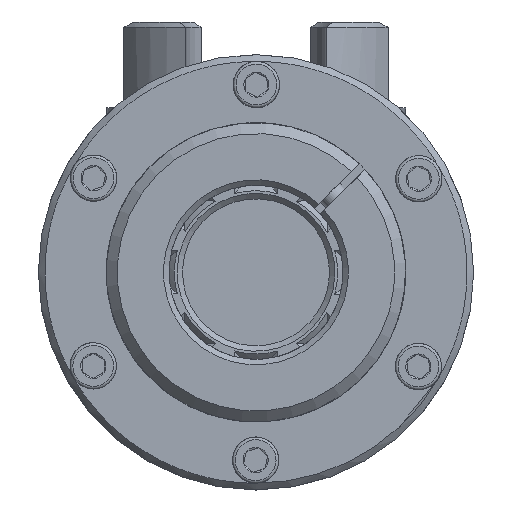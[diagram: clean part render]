
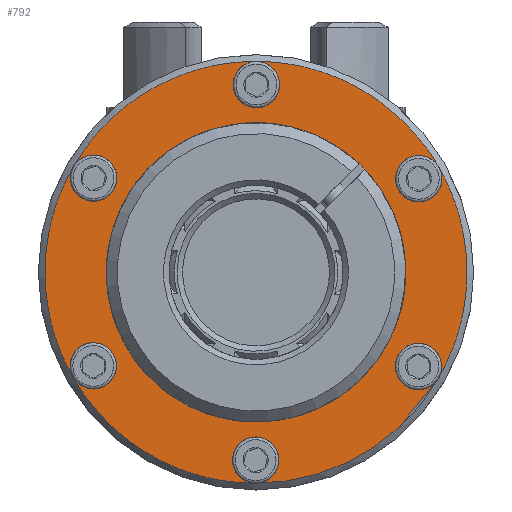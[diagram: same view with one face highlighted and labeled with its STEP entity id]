
A CAD part, left-side view. The second image highlights one B-rep face of the part: STEP entity #792.
In plain terms, the highlighted planar face has unit normal (-1, 0, 0).
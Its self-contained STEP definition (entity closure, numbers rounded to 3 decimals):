
#792 = ADVANCED_FACE( '', ( #1674, #1675 ), #1676, .F. );
#1674 = FACE_OUTER_BOUND( '', #2794, .T. );
#1675 = FACE_BOUND( '', #2795, .T. );
#1676 = PLANE( '', #2796 );
#2794 = EDGE_LOOP( '', ( #4416, #4417, #4418, #4419, #4420, #4421, #4422, #4423, #4424, #4425, #4426, #4427 ) );
#2795 = EDGE_LOOP( '', ( #4428 ) );
#2796 = AXIS2_PLACEMENT_3D( '', #4429, #4430, #4431 );
#4416 = ORIENTED_EDGE( '', *, *, #6718, .T. );
#4417 = ORIENTED_EDGE( '', *, *, #6711, .T. );
#4418 = ORIENTED_EDGE( '', *, *, #6719, .T. );
#4419 = ORIENTED_EDGE( '', *, *, #6710, .T. );
#4420 = ORIENTED_EDGE( '', *, *, #6716, .T. );
#4421 = ORIENTED_EDGE( '', *, *, #6715, .T. );
#4422 = ORIENTED_EDGE( '', *, *, #6720, .T. );
#4423 = ORIENTED_EDGE( '', *, *, #6714, .T. );
#4424 = ORIENTED_EDGE( '', *, *, #6721, .T. );
#4425 = ORIENTED_EDGE( '', *, *, #6713, .T. );
#4426 = ORIENTED_EDGE( '', *, *, #6722, .T. );
#4427 = ORIENTED_EDGE( '', *, *, #6712, .T. );
#4428 = ORIENTED_EDGE( '', *, *, #6723, .F. );
#4429 = CARTESIAN_POINT( '', ( -13.499, 40., 0. ) );
#4430 = DIRECTION( '', ( 1., 0., 0. ) );
#4431 = DIRECTION( '', ( 0., 1., 0. ) );
#6710 = EDGE_CURVE( '', #7753, #7754, #7755, .F. );
#6711 = EDGE_CURVE( '', #7756, #7753, #7757, .F. );
#6712 = EDGE_CURVE( '', #7758, #7756, #7759, .F. );
#6713 = EDGE_CURVE( '', #7760, #7758, #7761, .F. );
#6714 = EDGE_CURVE( '', #7762, #7760, #7763, .F. );
#6715 = EDGE_CURVE( '', #7754, #7762, #7764, .F. );
#6716 = EDGE_CURVE( '', #7754, #7754, #7765, .T. );
#6718 = EDGE_CURVE( '', #7756, #7756, #7768, .T. );
#6719 = EDGE_CURVE( '', #7753, #7753, #7769, .T. );
#6720 = EDGE_CURVE( '', #7762, #7762, #7770, .T. );
#6721 = EDGE_CURVE( '', #7760, #7760, #7771, .T. );
#6722 = EDGE_CURVE( '', #7758, #7758, #7772, .T. );
#6723 = EDGE_CURVE( '', #7773, #7773, #7774, .F. );
#7753 = VERTEX_POINT( '', #9499 );
#7754 = VERTEX_POINT( '', #9500 );
#7755 = CIRCLE( '', #9501, 38.75 );
#7756 = VERTEX_POINT( '', #9502 );
#7757 = CIRCLE( '', #9503, 38.75 );
#7758 = VERTEX_POINT( '', #9504 );
#7759 = CIRCLE( '', #9505, 38.75 );
#7760 = VERTEX_POINT( '', #9506 );
#7761 = CIRCLE( '', #9507, 38.75 );
#7762 = VERTEX_POINT( '', #9508 );
#7763 = CIRCLE( '', #9509, 38.75 );
#7764 = CIRCLE( '', #9510, 38.75 );
#7765 = CIRCLE( '', #9511, 4.25 );
#7768 = CIRCLE( '', #9514, 4.25 );
#7769 = CIRCLE( '', #9515, 4.25 );
#7770 = CIRCLE( '', #9516, 4.25 );
#7771 = CIRCLE( '', #9517, 4.25 );
#7772 = CIRCLE( '', #9518, 4.25 );
#7773 = VERTEX_POINT( '', #9519 );
#7774 = CIRCLE( '', #9520, 27.5 );
#9499 = CARTESIAN_POINT( '', ( -13.499, 33.558, 19.375 ) );
#9500 = CARTESIAN_POINT( '', ( -13.499, 33.558, -19.375 ) );
#9501 = AXIS2_PLACEMENT_3D( '', #11772, #11773, #11774 );
#9502 = CARTESIAN_POINT( '', ( -13.499, 0., 38.75 ) );
#9503 = AXIS2_PLACEMENT_3D( '', #11775, #11776, #11777 );
#9504 = CARTESIAN_POINT( '', ( -13.499, -33.558, 19.375 ) );
#9505 = AXIS2_PLACEMENT_3D( '', #11778, #11779, #11780 );
#9506 = CARTESIAN_POINT( '', ( -13.499, -33.558, -19.375 ) );
#9507 = AXIS2_PLACEMENT_3D( '', #11781, #11782, #11783 );
#9508 = CARTESIAN_POINT( '', ( -13.499, 0., -38.75 ) );
#9509 = AXIS2_PLACEMENT_3D( '', #11784, #11785, #11786 );
#9510 = AXIS2_PLACEMENT_3D( '', #11787, #11788, #11789 );
#9511 = AXIS2_PLACEMENT_3D( '', #11790, #11791, #11792 );
#9514 = AXIS2_PLACEMENT_3D( '', #11796, #11797, #11798 );
#9515 = AXIS2_PLACEMENT_3D( '', #11799, #11800, #11801 );
#9516 = AXIS2_PLACEMENT_3D( '', #11802, #11803, #11804 );
#9517 = AXIS2_PLACEMENT_3D( '', #11805, #11806, #11807 );
#9518 = AXIS2_PLACEMENT_3D( '', #11808, #11809, #11810 );
#9519 = CARTESIAN_POINT( '', ( -13.499, 0., -27.5 ) );
#9520 = AXIS2_PLACEMENT_3D( '', #11811, #11812, #11813 );
#11772 = CARTESIAN_POINT( '', ( -13.499, 0., 0. ) );
#11773 = DIRECTION( '', ( 1., 0., 0. ) );
#11774 = DIRECTION( '', ( 0., 0., -1. ) );
#11775 = CARTESIAN_POINT( '', ( -13.499, 0., 0. ) );
#11776 = DIRECTION( '', ( 1., 0., 0. ) );
#11777 = DIRECTION( '', ( 0., 0., -1. ) );
#11778 = CARTESIAN_POINT( '', ( -13.499, 0., 0. ) );
#11779 = DIRECTION( '', ( 1., 0., 0. ) );
#11780 = DIRECTION( '', ( 0., 0., -1. ) );
#11781 = CARTESIAN_POINT( '', ( -13.499, 0., 0. ) );
#11782 = DIRECTION( '', ( 1., 0., 0. ) );
#11783 = DIRECTION( '', ( 0., 0., -1. ) );
#11784 = CARTESIAN_POINT( '', ( -13.499, 0., 0. ) );
#11785 = DIRECTION( '', ( 1., 0., 0. ) );
#11786 = DIRECTION( '', ( 0., 0., -1. ) );
#11787 = CARTESIAN_POINT( '', ( -13.499, 0., 0. ) );
#11788 = DIRECTION( '', ( 1., 0., 0. ) );
#11789 = DIRECTION( '', ( 0., 0., -1. ) );
#11790 = CARTESIAN_POINT( '', ( -13.499, 29.878, -17.25 ) );
#11791 = DIRECTION( '', ( 1., 0., 0. ) );
#11792 = DIRECTION( '', ( 0., 0., -1. ) );
#11796 = CARTESIAN_POINT( '', ( -13.499, 0., 34.5 ) );
#11797 = DIRECTION( '', ( 1., 0., 0. ) );
#11798 = DIRECTION( '', ( 0., 0., -1. ) );
#11799 = CARTESIAN_POINT( '', ( -13.499, 29.878, 17.25 ) );
#11800 = DIRECTION( '', ( 1., 0., 0. ) );
#11801 = DIRECTION( '', ( 0., 0., -1. ) );
#11802 = CARTESIAN_POINT( '', ( -13.499, 0., -34.5 ) );
#11803 = DIRECTION( '', ( 1., 0., 0. ) );
#11804 = DIRECTION( '', ( 0., 0., -1. ) );
#11805 = CARTESIAN_POINT( '', ( -13.499, -29.878, -17.25 ) );
#11806 = DIRECTION( '', ( 1., 0., 0. ) );
#11807 = DIRECTION( '', ( 0., 0., -1. ) );
#11808 = CARTESIAN_POINT( '', ( -13.499, -29.878, 17.25 ) );
#11809 = DIRECTION( '', ( 1., 0., 0. ) );
#11810 = DIRECTION( '', ( 0., 0., -1. ) );
#11811 = CARTESIAN_POINT( '', ( -13.499, 0., 0. ) );
#11812 = DIRECTION( '', ( 1., 0., 0. ) );
#11813 = DIRECTION( '', ( 0., 0., -1. ) );
